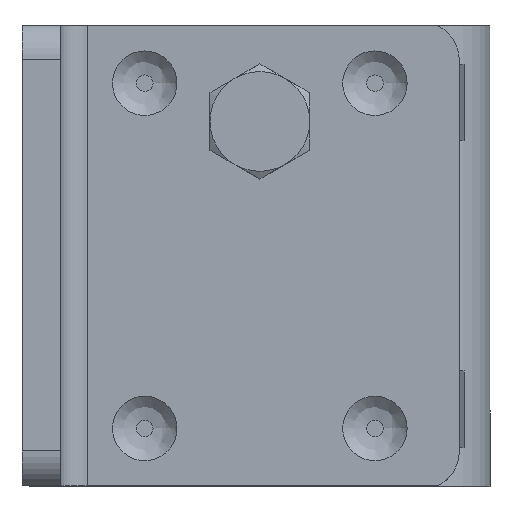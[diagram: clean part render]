
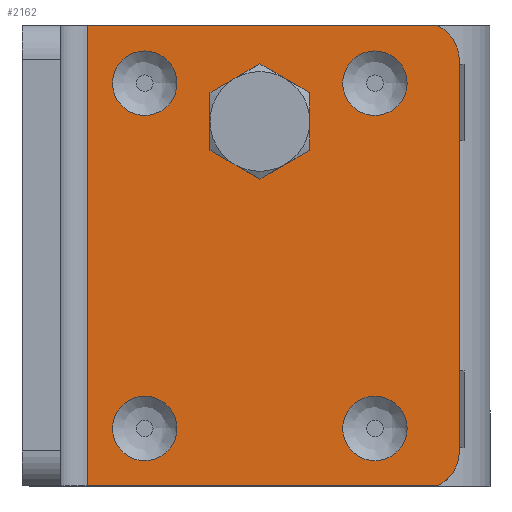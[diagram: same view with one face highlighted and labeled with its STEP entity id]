
A CAD part, top view. The second image highlights one B-rep face of the part: STEP entity #2162.
In plain terms, the highlighted planar face has unit normal (0, 0, 1).
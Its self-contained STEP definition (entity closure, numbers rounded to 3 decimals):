
#38=FACE_BOUND('',#360,.T.);
#39=FACE_BOUND('',#361,.T.);
#40=FACE_BOUND('',#362,.T.);
#41=FACE_BOUND('',#363,.T.);
#42=FACE_BOUND('',#364,.T.);
#212=FACE_OUTER_BOUND('',#359,.T.);
#359=EDGE_LOOP('',(#1597,#1598,#1599,#1600,#1601,#1602));
#360=EDGE_LOOP('',(#1603,#1604));
#361=EDGE_LOOP('',(#1605,#1606));
#362=EDGE_LOOP('',(#1607,#1608));
#363=EDGE_LOOP('',(#1609,#1610));
#364=EDGE_LOOP('',(#1611));
#530=CIRCLE('',#2325,4.2);
#531=CIRCLE('',#2326,4.2);
#533=CIRCLE('',#2329,4.2);
#534=CIRCLE('',#2330,4.2);
#536=CIRCLE('',#2333,4.2);
#537=CIRCLE('',#2334,4.2);
#539=CIRCLE('',#2337,4.2);
#540=CIRCLE('',#2338,4.2);
#546=CIRCLE('',#2351,5.);
#547=CIRCLE('',#2352,5.);
#548=CIRCLE('',#2353,6.);
#661=LINE('',#3642,#825);
#665=LINE('',#3649,#829);
#666=LINE('',#3654,#830);
#667=LINE('',#3657,#831);
#825=VECTOR('',#2730,60.);
#829=VECTOR('',#2736,45.679);
#830=VECTOR('',#2741,51.);
#831=VECTOR('',#2744,45.679);
#991=VERTEX_POINT('',#3499);
#992=VERTEX_POINT('',#3500);
#994=VERTEX_POINT('',#3536);
#995=VERTEX_POINT('',#3537);
#997=VERTEX_POINT('',#3573);
#998=VERTEX_POINT('',#3574);
#1000=VERTEX_POINT('',#3610);
#1001=VERTEX_POINT('',#3611);
#1006=VERTEX_POINT('',#3626);
#1009=VERTEX_POINT('',#3633);
#1012=VERTEX_POINT('',#3647);
#1013=VERTEX_POINT('',#3651);
#1014=VERTEX_POINT('',#3653);
#1015=VERTEX_POINT('',#3655);
#1016=VERTEX_POINT('',#3658);
#1200=EDGE_CURVE('',#991,#992,#530,.T.);
#1201=EDGE_CURVE('',#992,#991,#531,.T.);
#1204=EDGE_CURVE('',#994,#995,#533,.T.);
#1205=EDGE_CURVE('',#995,#994,#534,.T.);
#1208=EDGE_CURVE('',#997,#998,#536,.T.);
#1209=EDGE_CURVE('',#998,#997,#537,.T.);
#1212=EDGE_CURVE('',#1000,#1001,#539,.T.);
#1213=EDGE_CURVE('',#1001,#1000,#540,.T.);
#1226=EDGE_CURVE('',#1006,#1009,#661,.T.);
#1230=EDGE_CURVE('',#1009,#1012,#665,.T.);
#1231=EDGE_CURVE('',#1012,#1013,#546,.T.);
#1232=EDGE_CURVE('',#1013,#1014,#666,.T.);
#1233=EDGE_CURVE('',#1014,#1015,#547,.T.);
#1234=EDGE_CURVE('',#1015,#1006,#667,.T.);
#1235=EDGE_CURVE('',#1016,#1016,#548,.T.);
#1597=ORIENTED_EDGE('',*,*,#1226,.T.);
#1598=ORIENTED_EDGE('',*,*,#1230,.T.);
#1599=ORIENTED_EDGE('',*,*,#1231,.T.);
#1600=ORIENTED_EDGE('',*,*,#1232,.T.);
#1601=ORIENTED_EDGE('',*,*,#1233,.T.);
#1602=ORIENTED_EDGE('',*,*,#1234,.T.);
#1603=ORIENTED_EDGE('',*,*,#1204,.T.);
#1604=ORIENTED_EDGE('',*,*,#1205,.T.);
#1605=ORIENTED_EDGE('',*,*,#1200,.T.);
#1606=ORIENTED_EDGE('',*,*,#1201,.T.);
#1607=ORIENTED_EDGE('',*,*,#1208,.T.);
#1608=ORIENTED_EDGE('',*,*,#1209,.T.);
#1609=ORIENTED_EDGE('',*,*,#1212,.T.);
#1610=ORIENTED_EDGE('',*,*,#1213,.T.);
#1611=ORIENTED_EDGE('',*,*,#1235,.T.);
#2056=PLANE('',#2350);
#2162=ADVANCED_FACE('',(#212,#38,#39,#40,#41,#42),#2056,.T.);
#2325=AXIS2_PLACEMENT_3D('',#3501,#2676,#2677);
#2326=AXIS2_PLACEMENT_3D('',#3502,#2678,#2679);
#2329=AXIS2_PLACEMENT_3D('',#3538,#2684,#2685);
#2330=AXIS2_PLACEMENT_3D('',#3539,#2686,#2687);
#2333=AXIS2_PLACEMENT_3D('',#3575,#2692,#2693);
#2334=AXIS2_PLACEMENT_3D('',#3576,#2694,#2695);
#2337=AXIS2_PLACEMENT_3D('',#3612,#2700,#2701);
#2338=AXIS2_PLACEMENT_3D('',#3613,#2702,#2703);
#2350=AXIS2_PLACEMENT_3D('',#3650,#2737,#2738);
#2351=AXIS2_PLACEMENT_3D('',#3652,#2739,#2740);
#2352=AXIS2_PLACEMENT_3D('',#3656,#2742,#2743);
#2353=AXIS2_PLACEMENT_3D('',#3659,#2745,#2746);
#2676=DIRECTION('center_axis',(0.,0.,-1.));
#2677=DIRECTION('ref_axis',(-1.,0.,0.));
#2678=DIRECTION('center_axis',(0.,0.,-1.));
#2679=DIRECTION('ref_axis',(-1.,0.,0.));
#2684=DIRECTION('center_axis',(0.,0.,-1.));
#2685=DIRECTION('ref_axis',(-1.,0.,0.));
#2686=DIRECTION('center_axis',(0.,0.,-1.));
#2687=DIRECTION('ref_axis',(-1.,0.,0.));
#2692=DIRECTION('center_axis',(0.,0.,-1.));
#2693=DIRECTION('ref_axis',(-1.,0.,0.));
#2694=DIRECTION('center_axis',(0.,0.,-1.));
#2695=DIRECTION('ref_axis',(-1.,0.,0.));
#2700=DIRECTION('center_axis',(0.,0.,-1.));
#2701=DIRECTION('ref_axis',(-1.,0.,0.));
#2702=DIRECTION('center_axis',(0.,0.,-1.));
#2703=DIRECTION('ref_axis',(-1.,0.,0.));
#2730=DIRECTION('',(0.,1.,0.));
#2736=DIRECTION('',(-1.,0.,0.));
#2737=DIRECTION('center_axis',(0.,0.,1.));
#2738=DIRECTION('ref_axis',(1.,0.,0.));
#2739=DIRECTION('center_axis',(0.,0.,1.));
#2740=DIRECTION('ref_axis',(-0.436,0.9,0.));
#2741=DIRECTION('',(0.,-1.,0.));
#2742=DIRECTION('center_axis',(0.,0.,1.));
#2743=DIRECTION('ref_axis',(-1.,0.,0.));
#2744=DIRECTION('',(1.,0.,0.));
#2745=DIRECTION('center_axis',(0.,0.,-1.));
#2746=DIRECTION('ref_axis',(-1.,0.,0.));
#3499=CARTESIAN_POINT('',(-55.3,-22.5,0.));
#3500=CARTESIAN_POINT('',(-63.7,-22.5,0.));
#3501=CARTESIAN_POINT('Origin',(-59.5,-22.5,0.));
#3502=CARTESIAN_POINT('Origin',(-59.5,-22.5,0.));
#3536=CARTESIAN_POINT('',(-25.3,-22.5,0.));
#3537=CARTESIAN_POINT('',(-33.7,-22.5,0.));
#3538=CARTESIAN_POINT('Origin',(-29.5,-22.5,0.));
#3539=CARTESIAN_POINT('Origin',(-29.5,-22.5,0.));
#3573=CARTESIAN_POINT('',(-25.3,22.5,0.));
#3574=CARTESIAN_POINT('',(-33.7,22.5,0.));
#3575=CARTESIAN_POINT('Origin',(-29.5,22.5,0.));
#3576=CARTESIAN_POINT('Origin',(-29.5,22.5,0.));
#3610=CARTESIAN_POINT('',(-55.3,22.5,0.));
#3611=CARTESIAN_POINT('',(-63.7,22.5,0.));
#3612=CARTESIAN_POINT('Origin',(-59.5,22.5,0.));
#3613=CARTESIAN_POINT('Origin',(-59.5,22.5,0.));
#3626=CARTESIAN_POINT('',(-22.,-30.,0.));
#3633=CARTESIAN_POINT('',(-22.,30.,0.));
#3642=CARTESIAN_POINT('',(-22.,15.,0.));
#3647=CARTESIAN_POINT('',(-67.679,30.,0.));
#3649=CARTESIAN_POINT('',(14.679,30.,0.));
#3650=CARTESIAN_POINT('Origin',(-26.5,0.,0.));
#3651=CARTESIAN_POINT('',(-70.5,25.5,0.));
#3652=CARTESIAN_POINT('Origin',(-65.5,25.5,0.));
#3653=CARTESIAN_POINT('',(-70.5,-25.5,0.));
#3654=CARTESIAN_POINT('',(-70.5,25.5,0.));
#3655=CARTESIAN_POINT('',(-67.679,-30.,0.));
#3656=CARTESIAN_POINT('Origin',(-65.5,-25.5,0.));
#3657=CARTESIAN_POINT('',(-67.679,-30.,0.));
#3658=CARTESIAN_POINT('',(-38.5,-17.5,0.));
#3659=CARTESIAN_POINT('Origin',(-44.5,-17.5,0.));
